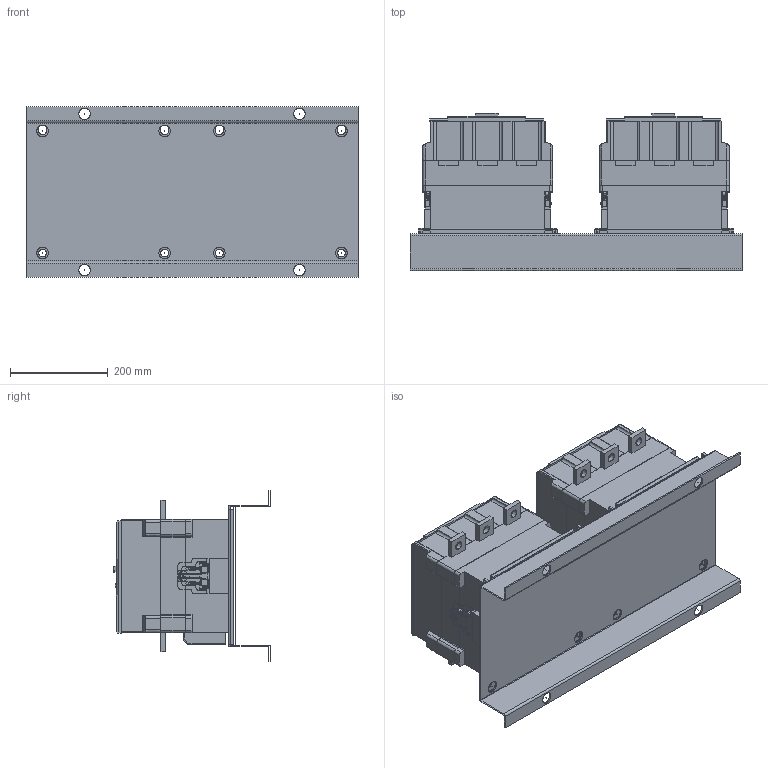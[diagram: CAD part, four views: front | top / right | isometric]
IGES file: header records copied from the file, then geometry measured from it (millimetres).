
Start section: SolidWorks IGES file using analytic representation for surfaces
Global section: file name: Q:\GROUPS\BR_SC_JGS_WA_TECNICO\ENG\Usuarios\Rodrigob\Novos\solido\Conversão\2 x CWM500...800 + BLIM CWME800\2 x CWM500...800 + BLIM CWME800.IGS; native system: SolidWorks 2009; preprocessor: SolidWorks 2009; author: rodrigob; date: 110901.145932; units: millimetre
Bounding box: 680 x 321.52 x 350 mm (x, y, z)
Surface area: 3413036.8 mm2 (no closed solid volume)
Topology: 0 solids, 0 shells, 4154 faces, 39232 edges, 39120 vertices
Faces by surface type: bspline 3298, revolution 856
